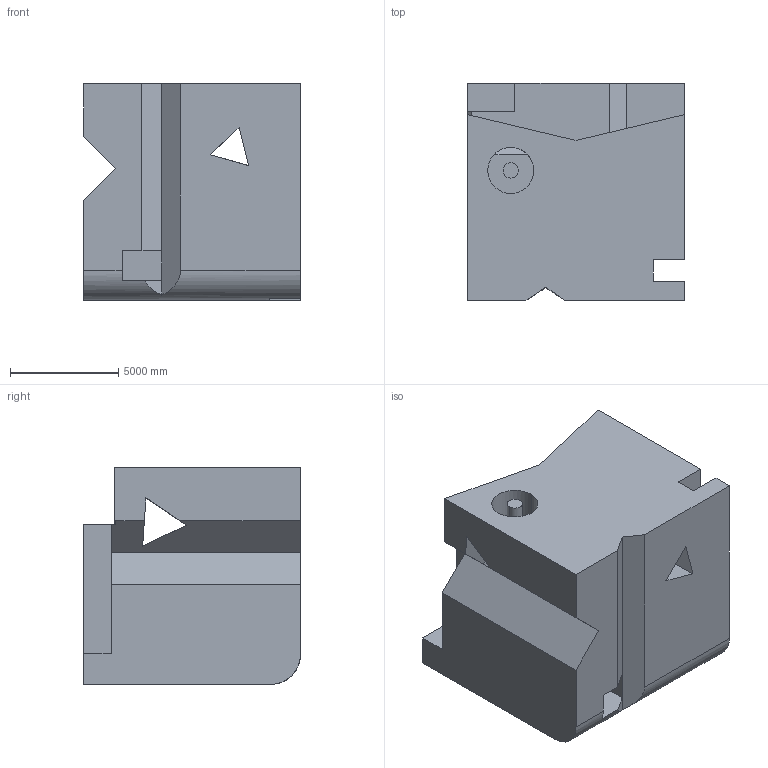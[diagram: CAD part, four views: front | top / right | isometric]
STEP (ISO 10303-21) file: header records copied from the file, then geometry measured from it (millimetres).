
FILE_DESCRIPTION (( 'STEP AP203' ), '1' );
FILE_NAME ('992.STEP', '2022-08-05T15:33:22', ( 'user' ), ( '' ), 'SwSTEP 2.0', 'SolidWorks 2021', '' );
FILE_SCHEMA (( 'CONFIG_CONTROL_DESIGN' ));
Length unit declared in the file: centimetre
Products named in the file (1): 992
Bounding box: 10000 x 10000 x 10000 mm (x, y, z)
Volume: 830163526211.4 mm3; surface area: 778196536.5 mm2
Topology: 1 solids, 1 shells, 44 faces, 133 edges, 88 vertices
Faces by surface type: plane 39, cylinder 5
Entity records: 1567 total; most frequent: CARTESIAN_POINT 275, ORIENTED_EDGE 266, DIRECTION 233, EDGE_CURVE 133, LINE 117, VECTOR 117, VERTEX_POINT 88, AXIS2_PLACEMENT_3D 58
